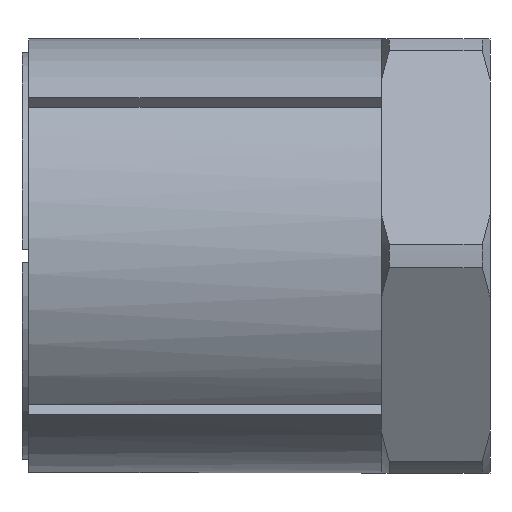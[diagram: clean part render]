
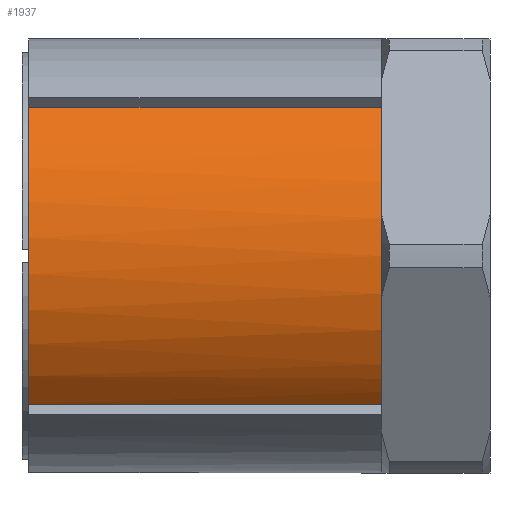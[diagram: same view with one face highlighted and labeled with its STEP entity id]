
A CAD part, front view. The second image highlights one B-rep face of the part: STEP entity #1937.
In plain terms, the highlighted cylindrical face has radius 16 mm (diameter 32 mm), a partial arc.
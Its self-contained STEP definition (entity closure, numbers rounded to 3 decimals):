
#112 = DIRECTION ( 'NONE',  ( 0., 0., 1. ) ) ;
#113 = DIRECTION ( 'NONE',  ( -1., 0., 0. ) ) ;
#114 = DIRECTION ( 'NONE',  ( 0., 0., 1. ) ) ;
#143 = CARTESIAN_POINT ( 'NONE',  ( 26., 0., 0. ) ) ;
#151 = DIRECTION ( 'NONE',  ( -1., 0., 0. ) ) ;
#152 = DIRECTION ( 'NONE',  ( 0., 0., 1. ) ) ;
#166 = CARTESIAN_POINT ( 'NONE',  ( 0., 0., 0. ) ) ;
#168 = DIRECTION ( 'NONE',  ( -1., 0., 0. ) ) ;
#169 = DIRECTION ( 'NONE',  ( 0., 0., 1. ) ) ;
#197 = CARTESIAN_POINT ( 'NONE',  ( 0., -11.662, -10.955 ) ) ;
#198 = DIRECTION ( 'NONE',  ( 1., 0., 0. ) ) ;
#674 = EDGE_LOOP ( 'NONE', ( #687, #2399, #2400, #2417, #2446, #2432 ) ) ;
#687 = ORIENTED_EDGE ( 'NONE', *, *, #1988, .T. ) ;
#988 = FACE_OUTER_BOUND ( 'NONE', #674, .T. ) ;
#994 = CYLINDRICAL_SURFACE ( 'NONE', #2256, 16. ) ;
#1032 = LINE ( 'NONE', #2686, #1052 ) ;
#1052 = VECTOR ( 'NONE', #2685, 1000. ) ;
#1066 = CIRCLE ( 'NONE', #2270, 16. ) ;
#1068 = CIRCLE ( 'NONE', #2277, 16. ) ;
#1078 = CIRCLE ( 'NONE', #2281, 16. ) ;
#1086 = CIRCLE ( 'NONE', #2283, 16. ) ;
#1098 = LINE ( 'NONE', #197, #1099 ) ;
#1099 = VECTOR ( 'NONE', #198, 1000. ) ;
#1309 = VERTEX_POINT ( 'NONE', #1736 ) ;
#1310 = VERTEX_POINT ( 'NONE', #1735 ) ;
#1329 = VERTEX_POINT ( 'NONE', #2780 ) ;
#1735 = CARTESIAN_POINT ( 'NONE',  ( 26., -11.662, -10.955 ) ) ;
#1736 = CARTESIAN_POINT ( 'NONE',  ( 26., -13.856, -8. ) ) ;
#1806 = VERTEX_POINT ( 'NONE', #2803 ) ;
#1808 = VERTEX_POINT ( 'NONE', #2801 ) ;
#1809 = VERTEX_POINT ( 'NONE', #2800 ) ;
#1937 = ADVANCED_FACE ( 'NONE', ( #988 ), #994, .T. ) ;
#1981 = EDGE_CURVE ( 'NONE', #1808, #1809, #1032, .T. ) ;
#1988 = EDGE_CURVE ( 'NONE', #1329, #1808, #1066, .T. ) ;
#1989 = EDGE_CURVE ( 'NONE', #1310, #1309, #1068, .T. ) ;
#2000 = EDGE_CURVE ( 'NONE', #1309, #1329, #1078, .T. ) ;
#2006 = EDGE_CURVE ( 'NONE', #1806, #1809, #1086, .T. ) ;
#2016 = EDGE_CURVE ( 'NONE', #1806, #1310, #1098, .T. ) ;
#2256 = AXIS2_PLACEMENT_3D ( 'NONE', #2587, #2507, #2469 ) ;
#2270 = AXIS2_PLACEMENT_3D ( 'NONE', #2468, #2717, #112 ) ;
#2277 = AXIS2_PLACEMENT_3D ( 'NONE', #2598, #113, #114 ) ;
#2281 = AXIS2_PLACEMENT_3D ( 'NONE', #143, #151, #152 ) ;
#2283 = AXIS2_PLACEMENT_3D ( 'NONE', #166, #168, #169 ) ;
#2399 = ORIENTED_EDGE ( 'NONE', *, *, #1981, .T. ) ;
#2400 = ORIENTED_EDGE ( 'NONE', *, *, #2006, .F. ) ;
#2417 = ORIENTED_EDGE ( 'NONE', *, *, #2016, .T. ) ;
#2432 = ORIENTED_EDGE ( 'NONE', *, *, #2000, .T. ) ;
#2446 = ORIENTED_EDGE ( 'NONE', *, *, #1989, .T. ) ;
#2468 = CARTESIAN_POINT ( 'NONE',  ( 26., 0., 0. ) ) ;
#2469 = DIRECTION ( 'NONE',  ( 0., 0., 1. ) ) ;
#2507 = DIRECTION ( 'NONE',  ( -1., 0., 0. ) ) ;
#2587 = CARTESIAN_POINT ( 'NONE',  ( 0., 0., 0. ) ) ;
#2598 = CARTESIAN_POINT ( 'NONE',  ( 26., 0., 0. ) ) ;
#2685 = DIRECTION ( 'NONE',  ( -1., 0., 0. ) ) ;
#2686 = CARTESIAN_POINT ( 'NONE',  ( 0., -11.662, 10.955 ) ) ;
#2717 = DIRECTION ( 'NONE',  ( -1., 0., 0. ) ) ;
#2780 = CARTESIAN_POINT ( 'NONE',  ( 26., -13.856, 8. ) ) ;
#2800 = CARTESIAN_POINT ( 'NONE',  ( 0., -11.662, 10.955 ) ) ;
#2801 = CARTESIAN_POINT ( 'NONE',  ( 26., -11.662, 10.955 ) ) ;
#2803 = CARTESIAN_POINT ( 'NONE',  ( 0., -11.662, -10.955 ) ) ;
